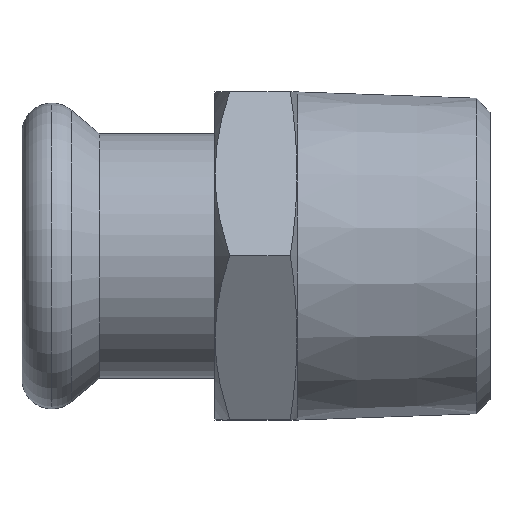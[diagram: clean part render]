
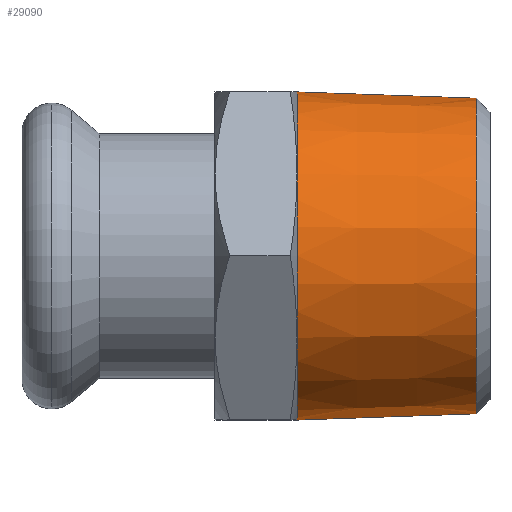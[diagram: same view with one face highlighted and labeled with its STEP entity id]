
A CAD part, top view. The second image highlights one B-rep face of the part: STEP entity #29090.
In plain terms, the highlighted conical face has half-angle 1.998 degrees and reference radius 17 mm.
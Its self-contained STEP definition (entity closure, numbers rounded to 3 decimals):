
#370=CARTESIAN_POINT('',(-73.071,-319.306,
0.));
#380=DIRECTION('',(-1.,0.,0.));
#390=DIRECTION('',(0.,-1.,0.));
#400=AXIS2_PLACEMENT_3D('',#370,#380,#390);
#410=CONICAL_SURFACE('',#400,17.,0.035);
#420=CARTESIAN_POINT('',(-73.071,-302.306,
0.));
#430=DIRECTION('',(-0.999,0.035,
0.));
#440=VECTOR('',#430,1.);
#450=LINE('',#420,#440);
#460=CARTESIAN_POINT('',(-54.47,-302.955,
0.));
#470=VERTEX_POINT('',#460);
#480=CARTESIAN_POINT('',(-73.071,-302.306,
0.));
#490=VERTEX_POINT('',#480);
#500=EDGE_CURVE('',#470,#490,#450,.T.);
#520=CARTESIAN_POINT('',(-73.071,-319.306,
0.));
#530=DIRECTION('',(-1.,0.,0.));
#540=DIRECTION('',(0.,-1.,0.));
#550=AXIS2_PLACEMENT_3D('',#520,#530,#540);
#560=CIRCLE('',#550,17.);
#650=CARTESIAN_POINT('',(-73.071,-336.306,
0.));
#660=VERTEX_POINT('',#650);
#690=CARTESIAN_POINT('',(-73.071,-336.306,
0.));
#700=DIRECTION('',(-0.999,-0.035,
0.));
#710=VECTOR('',#700,1.);
#720=LINE('',#690,#710);
#730=CARTESIAN_POINT('',(-54.47,-335.657,
0.));
#740=VERTEX_POINT('',#730);
#750=EDGE_CURVE('',#740,#660,#720,.T.);
#770=CARTESIAN_POINT('',(-54.47,-319.306,
0.));
#780=DIRECTION('',(-1.,0.,0.));
#790=DIRECTION('',(0.,-1.,0.));
#800=AXIS2_PLACEMENT_3D('',#770,#780,#790);
#810=CIRCLE('',#800,16.351);
#8330=CARTESIAN_POINT('',(-73.071,-310.806,14.722
));
#8340=VERTEX_POINT('',#8330);
#10500=CARTESIAN_POINT('',(-73.071,-327.806,
14.722));
#10510=VERTEX_POINT('',#10500);
#13600=EDGE_CURVE('',#10510,#8340,#560,.T.);
#13680=EDGE_CURVE('',#8340,#490,#560,.T.);
#13790=EDGE_CURVE('',#660,#10510,#560,.T.);
#29000=ORIENTED_EDGE('',*,*,#500,.T.);
#29010=EDGE_CURVE('',#740,#470,#810,.T.);
#29020=ORIENTED_EDGE('',*,*,#29010,.T.);
#29030=ORIENTED_EDGE('',*,*,#750,.F.);
#29040=ORIENTED_EDGE('',*,*,#13790,.F.);
#29050=ORIENTED_EDGE('',*,*,#13600,.F.);
#29060=ORIENTED_EDGE('',*,*,#13680,.F.);
#29070=EDGE_LOOP('',(#29060,#29050,#29040,#29030,#29020,#29000));
#29080=FACE_OUTER_BOUND('',#29070,.T.);
#29090=ADVANCED_FACE('',(#29080),#410,.T.);
